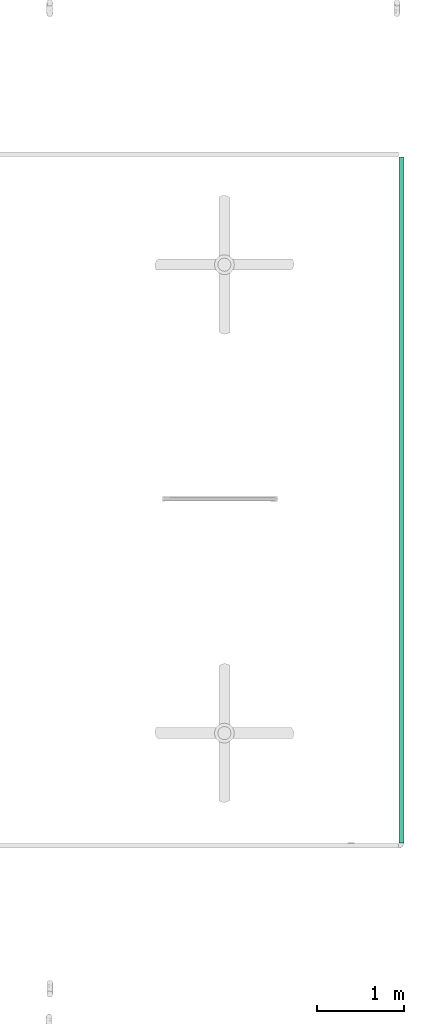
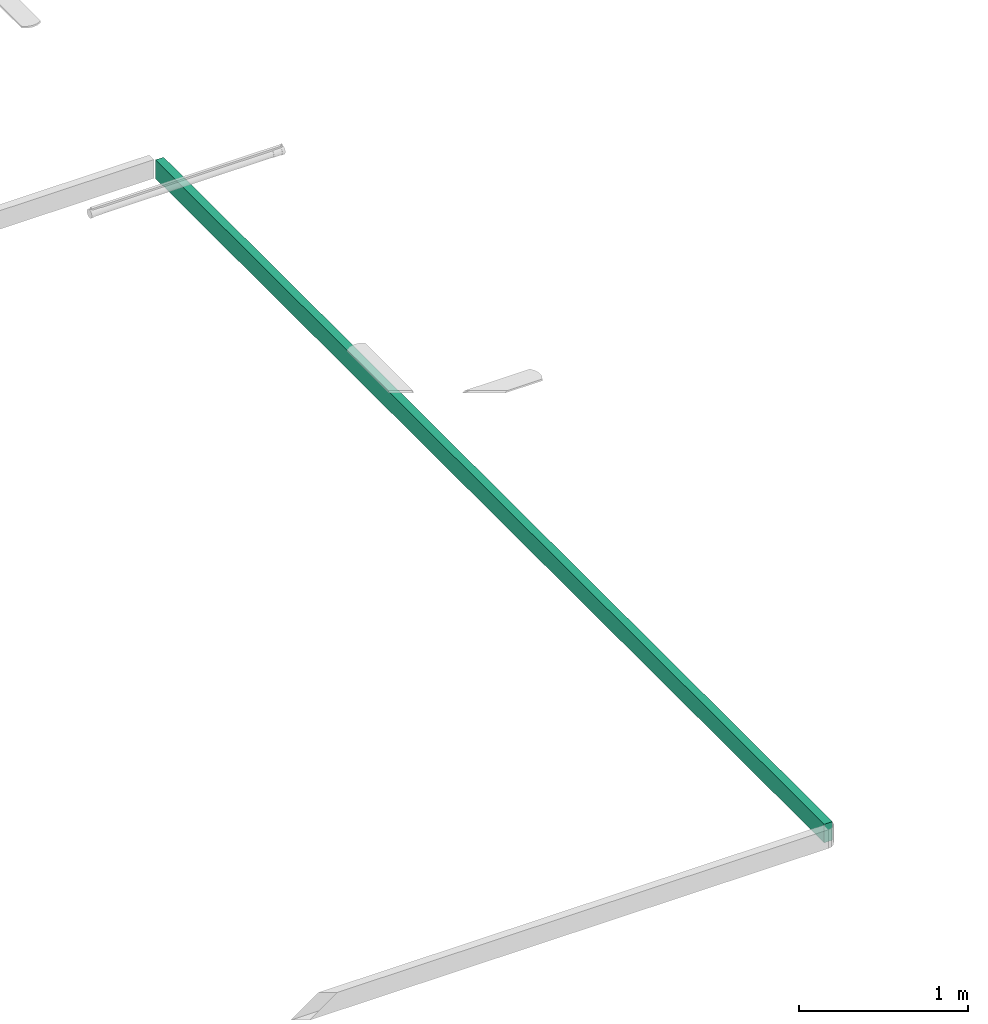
# One storey, part 5 of 9: 1 flow segment.
"""IFC2X3 building model written with IfcOpenShell, lengths in metres."""

from ifc_helpers import new_model, entity, si_unit, converted_unit, derived_unit, direction, frame, frame_2d, origin, place, context, subcontext, project, spatial, rectangle, extrude, type_object, element, save


model = new_model("IFC2X3")

# Units and contexts
model_context = context("Model", 3, precision=1e-05, world=origin(), true_north=direction((6.12303176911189e-17, 1.0)))
body_context = subcontext(model_context, "Body", "Model", "MODEL_VIEW")
ifc_project = project(units=[si_unit("LENGTHUNIT", "METRE"), si_unit("AREAUNIT", "SQUARE_METRE"), si_unit("VOLUMEUNIT", "CUBIC_METRE"), converted_unit("PLANEANGLEUNIT", "DEGREE", entity("IfcRatioMeasure", 0.0174532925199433), si_unit("PLANEANGLEUNIT", "RADIAN"), dimensions=[0, 0, 0, 0, 0, 0, 0]), si_unit("MASSUNIT", "GRAM", prefix="KILO"), derived_unit("MASSDENSITYUNIT", [(si_unit("MASSUNIT", "GRAM", prefix="KILO"), 1), (si_unit("LENGTHUNIT", "METRE"), -3)]), si_unit("TIMEUNIT", "SECOND"), si_unit("FREQUENCYUNIT", "HERTZ"), si_unit("THERMODYNAMICTEMPERATUREUNIT", "DEGREE_CELSIUS"), derived_unit("THERMALTRANSMITTANCEUNIT", [(si_unit("MASSUNIT", "GRAM", prefix="KILO"), 1), (si_unit("THERMODYNAMICTEMPERATUREUNIT", "KELVIN"), -1), (si_unit("TIMEUNIT", "SECOND"), -3)]), derived_unit("VOLUMETRICFLOWRATEUNIT", [(si_unit("LENGTHUNIT", "METRE"), 3), (si_unit("TIMEUNIT", "SECOND"), -1)]), si_unit("ELECTRICCURRENTUNIT", "AMPERE"), si_unit("ELECTRICVOLTAGEUNIT", "VOLT"), si_unit("POWERUNIT", "WATT"), si_unit("FORCEUNIT", "NEWTON"), si_unit("ILLUMINANCEUNIT", "LUX"), si_unit("LUMINOUSFLUXUNIT", "LUMEN"), si_unit("LUMINOUSINTENSITYUNIT", "CANDELA"), derived_unit("USERDEFINED", [(si_unit("MASSUNIT", "GRAM", prefix="KILO"), -1), (si_unit("LENGTHUNIT", "METRE"), -2), (si_unit("TIMEUNIT", "SECOND"), 3), (si_unit("LUMINOUSFLUXUNIT", "LUMEN"), 1)]), derived_unit("LINEARVELOCITYUNIT", [(si_unit("LENGTHUNIT", "METRE"), 1), (si_unit("TIMEUNIT", "SECOND"), -1)]), si_unit("PRESSUREUNIT", "PASCAL"), derived_unit("USERDEFINED", [(si_unit("LENGTHUNIT", "METRE"), -2), (si_unit("MASSUNIT", "GRAM", prefix="KILO"), 1), (si_unit("TIMEUNIT", "SECOND"), -2)])], contexts=[model_context])

# Site, building, storey
site_placement = place(None, origin())
site = spatial("IfcSite", under=ifc_project, at=site_placement, Name="Default", CompositionType="ELEMENT")
building_placement = place(site_placement, origin())
building = spatial("IfcBuilding", under=site, at=building_placement, CompositionType="ELEMENT")
storey_placement = place(building_placement, frame((0.0, 0.0, -0.0599999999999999)))
storey = spatial("IfcBuildingStorey", under=building, at=storey_placement, Name="S01", CompositionType="ELEMENT", Elevation=-0.0599999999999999)

# Flow segment
cable_carrier_segment_type = type_object("IfcCableCarrierSegmentType", Name="Cable Tray with Fittings:Goulottes de câbles indéfini_Goulottes de câbles", PredefinedType="NOTDEFINED")
flow_segment_placement = place(storey_placement, origin())
element("IfcFlowSegment", 1, at=flow_segment_placement, inside=storey, type_object=cable_carrier_segment_type, Name="Cable Tray with Fittings:Goulottes de câbles indéfini_Goulottes de câbles", ObjectType="Cable Tray with Fittings:Goulottes de câbles indéfini_Goulottes de câbles", context=body_context, shape_type="SweptSolid", body=[
    extrude(rectangle(XDim=7.90084000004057, YDim=0.0560000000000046, at=frame_2d((1.73194791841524e-14, 0.0), x_axis=(1.0, 0.0))), frame((69.5424377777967, -189.220569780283, 0.3), z_axis=(0.0, 0.0, 1.0), x_axis=(0.0, 1.0, 0.0)), (0.0, 0.0, 1.0), 0.134),
])

save(model, "model.ifc")
